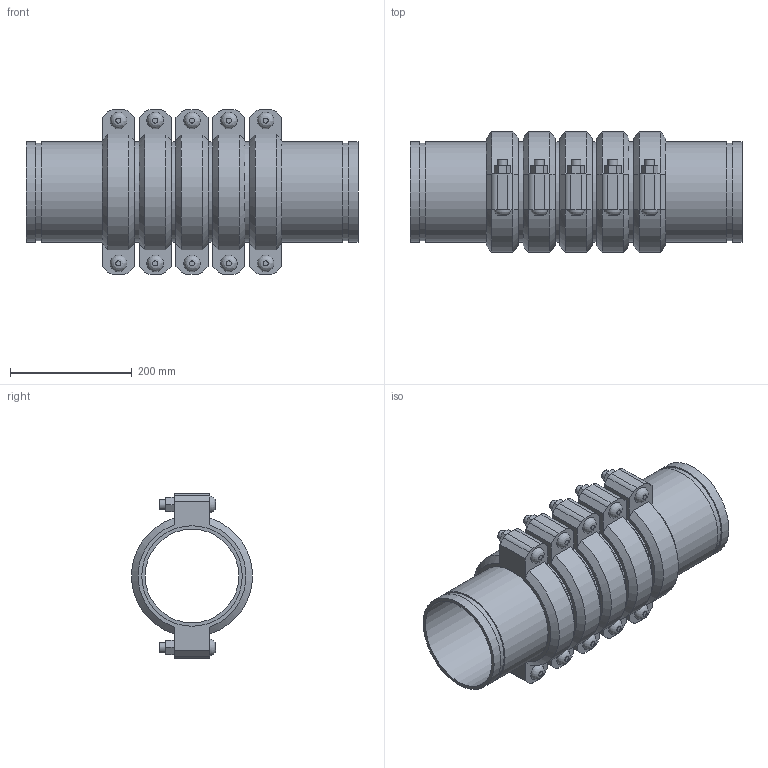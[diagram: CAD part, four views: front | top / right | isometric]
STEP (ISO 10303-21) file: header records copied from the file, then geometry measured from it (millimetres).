
FILE_DESCRIPTION(/* description */ ('VIC EXPANSION JOINT 5 COUPLINGS COMPRESSED STYLE 155 (OGS)','CAx-IF Rec.Pracs.---Representation and Presentation of Product Manufacturing Information (PMI)---4.0---2014-10-13'),/* implementation_level */ '2;1');
FILE_NAME(/* name */ 'C:\Users\kkamble\AppData\Roaming\Autodesk\ApplicationPlugins\Victaulic.Temp\A136\Victaulic_IPS_Expansion Joint_Compressed_5 Couplings_Style 155 (OGS)_06.0 (165.1) (150).stp',/* time_stamp */ '2021-06-27T00:30:01+02:00',/* author */ ('kkamble'),/* organization */ ('Victaulic'),/* preprocessor_version */ 'ST-DEVELOPER v17.2',/* originating_system */ 'Autodesk Inventor 2019',/* authorisation */ '');
FILE_SCHEMA (('AP242_MANAGED_MODEL_BASED_3D_ENGINEERING_MIM_LF { 1 0 10303 442 1 1 4 }'));
Length unit declared in the file: inch
Products named in the file (4): 155-06.0 (165.1); Nipple-06.0 (165.1); Nipple-06.0 (165.1)_1; 075_5_Coup-06.0 (165.1)
Assembly tree (11 placements, depth 2):
  155-06.0 (165.1)
    Nipple-06.0 (165.1)  x2
    Nipple-06.0 (165.1)_1  x4
    075_5_Coup-06.0 (165.1)  x5
Bounding box: 545.85 x 198.42 x 270.76 mm (x, y, z)
Volume: 4897406.6 mm3; surface area: 1147033.3 mm2
Topology: 11 solids, 21 shells, 357 faces, 845 edges, 594 vertices
Faces by surface type: plane 216, cylinder 111, cone 20, bspline 10
Full cylindrical faces by diameter (mm): 15.875 x20, 17.424 x10, 153.975 x6, 158.75 x5, 160.782 x12, 165.1 x28
Entity records: 2810 total; most frequent: CARTESIAN_POINT 495, DIRECTION 465, ORIENTED_EDGE 386, EDGE_CURVE 193, AXIS2_PLACEMENT_3D 186, VERTEX_POINT 138, EDGE_LOOP 107, LINE 93
